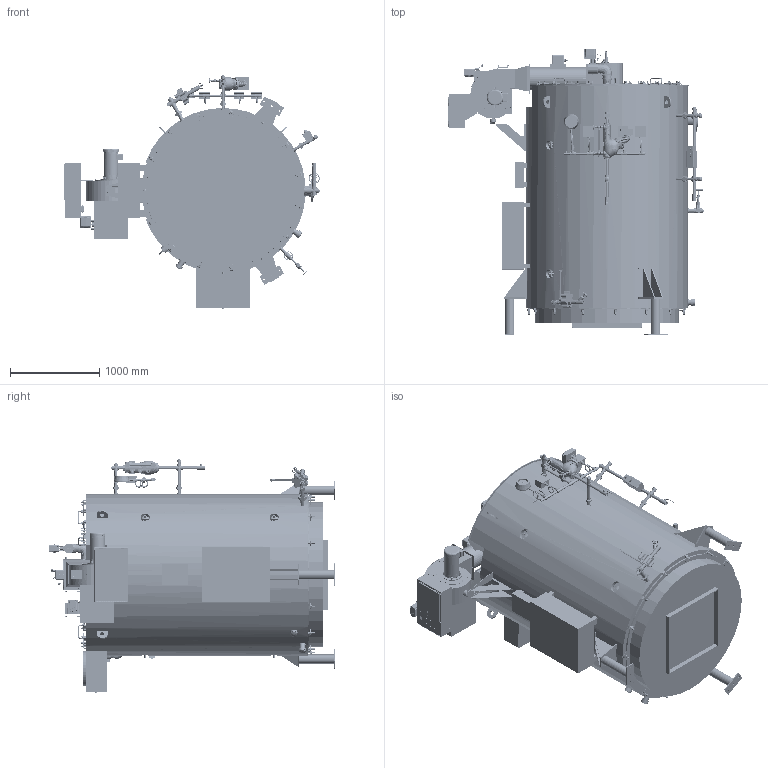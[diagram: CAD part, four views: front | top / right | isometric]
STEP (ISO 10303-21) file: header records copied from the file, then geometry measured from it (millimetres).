
FILE_DESCRIPTION(/* description */ (''),/* implementation_level */ '2;1');
FILE_NAME(/* name */ 'N:\Brandon Sherraden\Marketing\UTE\DVFT-125HP-2021.stp',/* time_stamp */ '2021-05-07T16:09:44-05:00',/* author */ ('bsherraden'),/* organization */ (''),/* preprocessor_version */ 'ST-DEVELOPER v18.1',/* originating_system */ 'Autodesk Inventor 2022',/* authorisation */ '');
FILE_SCHEMA (('AUTOMOTIVE_DESIGN { 1 0 10303 214 3 1 1 }'));
Products named in the file (319): DVFT-125HP; JACKET_125; SHELL_125; LEG ASSEMBLY_125; BASE PLATE; TUBE; BOTTOM PLATE_JK; TOP PLATE_125; LEG ATTACH PLATE_125; GUSSET PLATE_125; FURNACE ASSEMBLY_125; FURNACE SHELL_125; MUD RING_125; TURNAROUND SHELL_125; UPPER TUBESHEET_125; LOWER TUBESHEET_125_1; SMOKEBOX RING_125; BURNER MOUNT_125; TOP SMOKEBOX ASSEMBLY_125_custom; PLATE_125_custom; WRAPPER SHEET_125; DOORS_125_custom; STACK ASSEMBLY; SIDE PLATE; FRONT PLATE; BEVEL PLATE; ASME B16.11 Coupling - Class 3000 1_2; STACK_125; SUPPORT ASSEMBLY_125; TOP PLATE; LEG ATTACH PLATE_1255; GUSSET PLATE; BURNER CONTROL PANEL; BOILER J'BOX; BOTTOM LID RING_125; BOTTOM LID_125; HANDHOLE; HANDHOLE RING; HANDHOLE PLATE; HANDHOLE CRAB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
Assembly tree (711 placements, depth 8):
  DVFT-125HP
    JACKET_125
    SHELL_125
    LEG ASSEMBLY_125  x3
      BASE PLATE
      GUSSET PLATE_125
      TUBE
      BOTTOM PLATE_JK
      TOP PLATE_125
      LEG ATTACH PLATE_125
    FURNACE ASSEMBLY_125
      FURNACE SHELL_125
      MUD RING_125
      TURNAROUND SHELL_125
      UPPER TUBESHEET_125
      LOWER TUBESHEET_125_1
    SMOKEBOX RING_125
    BURNER MOUNT_125
    TOP SMOKEBOX ASSEMBLY_125_custom
      PLATE_125_custom
      WRAPPER SHEET_125
      DOORS_125_custom
    STACK ASSEMBLY
      SIDE PLATE
      FRONT PLATE
      BEVEL PLATE  x2
      ASME B16.11 Coupling - Class 3000 1_2
    STACK_125
    SUPPORT ASSEMBLY_125
      TOP PLATE
      LEG ATTACH PLATE_1255
      GUSSET PLATE  x2
    BURNER CONTROL PANEL
    BOTTOM LID RING_125
    BOTTOM LID_125
    HANDHOLE  x4
      HANDHOLE RING
      HANDHOLE PLATE
      HANDHOLE CRAB
    1 UNION  x4
    ASME B16.3 Reducing Tee - Class 300 1 x 1 x 3_4
    ASME B16.11 Cross Threaded - Class 2000 1  x4
    1 INCH BALL VALVE  x2
    ASME B16.11 Square Head Plug 1  x2
    GAUGE GLASS
    .75 UNION
    ASME B16.11 Tee Threaded - Class 2000 3_4  x5
    .25 INCH BALL VALVE  x2
    .25 IN SIPHON LOOP  x4
    CONTROLS  x3
    PRESSURE GAUGE
    MM 157s
      241160
      239680
      223200  x8
      247043
      240400
    ANSI_ASME B36.19M Pipe with Threaded Ends 3_4 - Schedule 80S - 6  x4
    DIN EN 10242 Reducing Bushing N4 II 1_2 x 1_4  x5
    ANSI_ASME B36.19M Pipe with Threaded Ends 3_4 - Schedule 80S - 2.5
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Bounding box: 2879.26 x 3215.93 x 2621.41 mm (x, y, z)
Volume: 1372053663 mm3; surface area: 122024874.9 mm2
Topology: 708 solids, 716 shells, 24306 faces, 62052 edges, 39868 vertices
Faces by surface type: plane 9666, cylinder 6713, cone 4114, bspline 2902, torus 568, sphere 343
Full cylindrical faces by diameter (mm): 2.019 x1, 2.286 x4, 2.388 x6, 2.438 x28, 2.474 x188, 2.489 x4, 2.565 x2, 2.705 x2, 2.718 x2, 3.175 x32, 3.251 x5, 3.454 x45, 3.505 x194, 3.556 x2, 3.734 x25, 3.785 x2, 3.81 x8, 4 x40, 4.039 x21, 4.064 x4, 4.166 x8, 4.216 x8, 4.318 x2, 4.369 x9, 4.445 x4, 4.521 x4, 4.572 x2, 4.7 x130, 4.701 x36, 4.75 x4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
Entity records: 952837 total; most frequent: CARTESIAN_POINT 551234, ORIENTED_EDGE 83660, DIRECTION 75902, EDGE_CURVE 41830, AXIS2_PLACEMENT_3D 28252, VERTEX_POINT 27048, EDGE_LOOP 20394, LINE 19398
